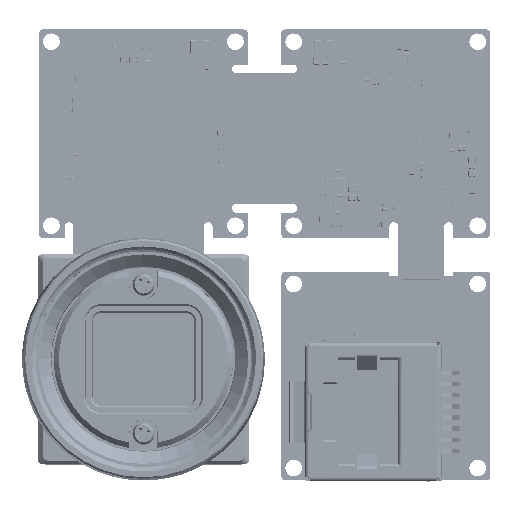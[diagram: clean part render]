
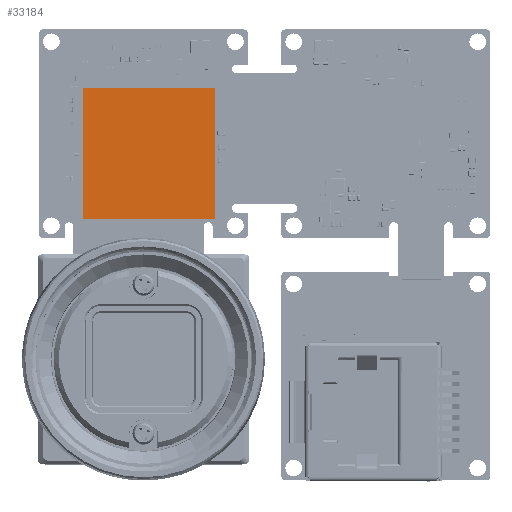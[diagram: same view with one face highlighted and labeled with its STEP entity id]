
A CAD part, top view. The second image highlights one B-rep face of the part: STEP entity #33184.
In plain terms, the highlighted planar face has unit normal (0, 0, 1).
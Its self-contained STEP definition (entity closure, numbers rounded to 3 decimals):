
#4295 = ORIENTED_EDGE ( 'NONE', *, *, #537366, .T. ) ;
#31811 = DIRECTION ( 'NONE',  ( 1., 0., 0. ) ) ;
#33184 = ADVANCED_FACE ( 'NONE', ( #178461 ), #115182, .F. ) ;
#46789 = LINE ( 'NONE', #201498, #596805 ) ;
#95478 = DIRECTION ( 'NONE',  ( 0., 1., 0. ) ) ;
#97991 = VERTEX_POINT ( 'NONE', #533209 ) ;
#115182 = PLANE ( 'NONE',  #147592 ) ;
#147592 = AXIS2_PLACEMENT_3D ( 'NONE', #310235, #357885, #461724 ) ;
#152956 = LINE ( 'NONE', #174882, #346856 ) ;
#157755 = ORIENTED_EDGE ( 'NONE', *, *, #323956, .T. ) ;
#174882 = CARTESIAN_POINT ( 'NONE',  ( -6.84, 15.999, -0.75 ) ) ;
#178461 = FACE_OUTER_BOUND ( 'NONE', #228246, .T. ) ;
#189771 = LINE ( 'NONE', #236643, #491812 ) ;
#193891 = CARTESIAN_POINT ( 'NONE',  ( -6.84, 15.999, -0.75 ) ) ;
#201498 = CARTESIAN_POINT ( 'NONE',  ( 8.16, 15.999, -0.75 ) ) ;
#223608 = EDGE_CURVE ( 'NONE', #333272, #334415, #46789, .T. ) ;
#228246 = EDGE_LOOP ( 'NONE', ( #284406, #157755, #256552, #4295 ) ) ;
#236643 = CARTESIAN_POINT ( 'NONE',  ( 8.16, 30.999, -0.75 ) ) ;
#256552 = ORIENTED_EDGE ( 'NONE', *, *, #223608, .T. ) ;
#284406 = ORIENTED_EDGE ( 'NONE', *, *, #557307, .T. ) ;
#310235 = CARTESIAN_POINT ( 'NONE',  ( 8.16, 30.999, -0.75 ) ) ;
#323956 = EDGE_CURVE ( 'NONE', #486997, #333272, #152956, .T. ) ;
#332056 = DIRECTION ( 'NONE',  ( 0., -1., 0. ) ) ;
#333272 = VERTEX_POINT ( 'NONE', #496814 ) ;
#334415 = VERTEX_POINT ( 'NONE', #431241 ) ;
#346856 = VECTOR ( 'NONE', #31811, 1000. ) ;
#357885 = DIRECTION ( 'NONE',  ( 0., 0., -1. ) ) ;
#379712 = DIRECTION ( 'NONE',  ( -1., 0., 0. ) ) ;
#388848 = VECTOR ( 'NONE', #332056, 1000. ) ;
#425284 = CARTESIAN_POINT ( 'NONE',  ( -6.84, 30.999, -0.75 ) ) ;
#431241 = CARTESIAN_POINT ( 'NONE',  ( 8.16, 30.999, -0.75 ) ) ;
#461724 = DIRECTION ( 'NONE',  ( 0., -1., 0. ) ) ;
#486997 = VERTEX_POINT ( 'NONE', #193891 ) ;
#491812 = VECTOR ( 'NONE', #379712, 1000. ) ;
#496814 = CARTESIAN_POINT ( 'NONE',  ( 8.16, 15.999, -0.75 ) ) ;
#533209 = CARTESIAN_POINT ( 'NONE',  ( -6.84, 30.999, -0.75 ) ) ;
#537366 = EDGE_CURVE ( 'NONE', #334415, #97991, #189771, .T. ) ;
#557307 = EDGE_CURVE ( 'NONE', #97991, #486997, #582149, .T. ) ;
#582149 = LINE ( 'NONE', #425284, #388848 ) ;
#596805 = VECTOR ( 'NONE', #95478, 1000. ) ;
